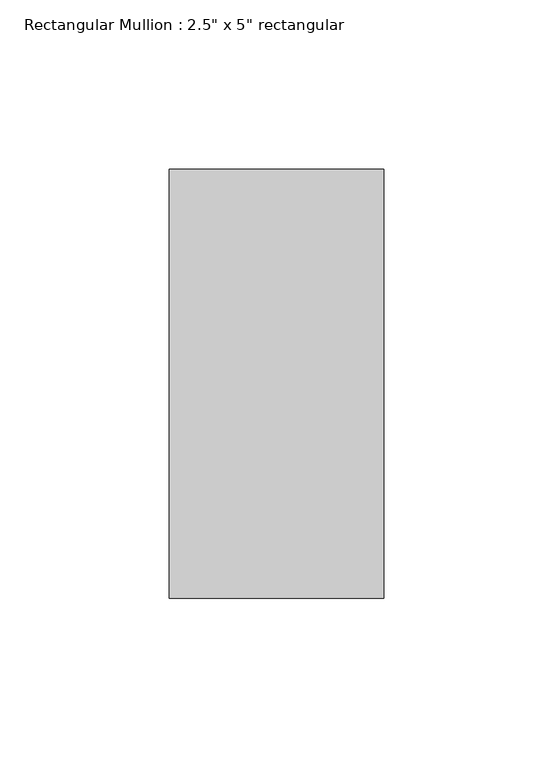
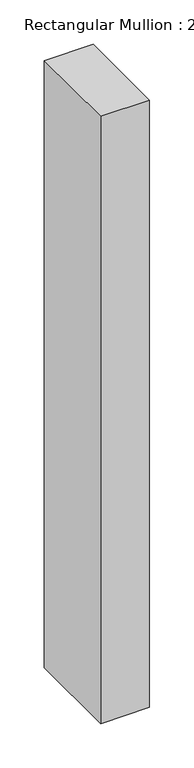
"""IFC4 building model written with IfcOpenShell, lengths in millimetres: member geometry."""

from ifc_helpers import new_model, si_unit, frame, origin, place, context, project, spatial, polyline, outline, extrude, source, transform, mapped, element, save


def member_4bf900b7(model_context):
    return source(origin(), model_context, "Body", "SweptSolid", [
        extrude(outline(polyline([(0.0, 63.5), (0.0, -63.5), (-63.5, -63.5), (-63.5, 63.5), (0.0, 63.5)])), frame((0.0, 0.0, -835.4911417), z_axis=(0.0, 0.0, 1.0), x_axis=(1.0, 0.0, 0.0)), (0.0, 0.0, 1.0), 835.4911417),
    ])


if __name__ == "__main__":
    model = new_model("IFC4")
    model_context = context("Model", 3, world=origin())
    ifc_project = project(units=[si_unit("LENGTHUNIT", "METRE", prefix="MILLI")], contexts=[model_context])
    site = spatial("IfcSite", under=ifc_project)
    building = spatial("IfcBuilding", under=site)
    placement = place(None, origin())
    member_shape = member_4bf900b7(model_context)
    element("IfcMember", 1, ObjectType="Rectangular Mullion : 2.5\" x 5\" rectangular", at=placement, inside=building, context=model_context, shape_type="MappedRepresentation", body=[
        mapped(member_shape, transform((0.0, 0.0, 0.0), x_axis=(1.0, 0.0, 0.0), y_axis=(0.0, 1.0, 0.0), z_axis=(0.0, 0.0, 1.0))),
    ])
    save(model, "model.ifc")
